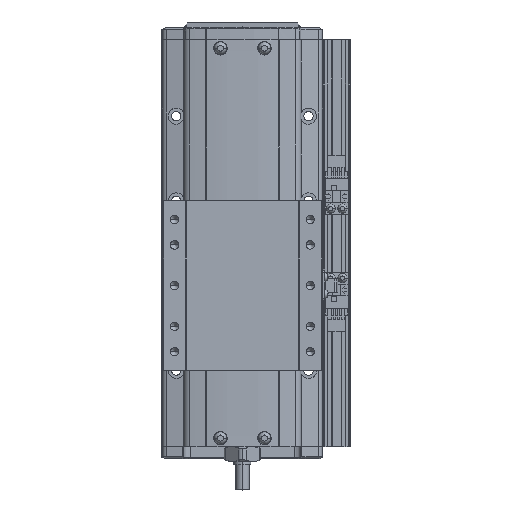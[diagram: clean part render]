
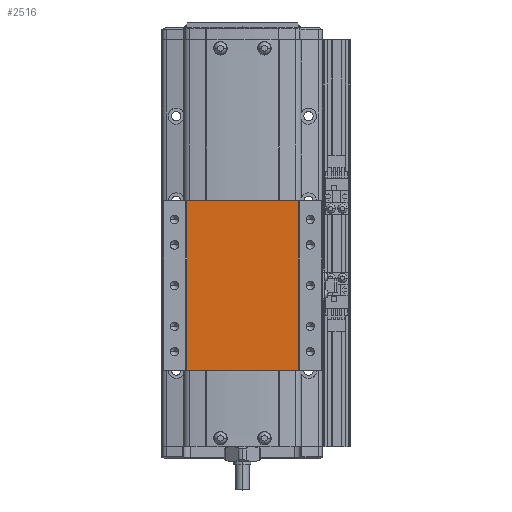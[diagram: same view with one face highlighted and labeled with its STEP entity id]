
A CAD part, top view. The second image highlights one B-rep face of the part: STEP entity #2516.
In plain terms, the highlighted planar face has unit normal (0, 0, 1).
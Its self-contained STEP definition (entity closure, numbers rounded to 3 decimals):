
#2516=ADVANCED_FACE('',(#6788),#6789,.F.);
#6788=FACE_OUTER_BOUND('',#13267,.T.);
#6789=PLANE('',#13268);
#13267=EDGE_LOOP('',(#21661,#21662,#21663,#21664));
#13268=AXIS2_PLACEMENT_3D('',#21665,#21666,#21667);
#21661=ORIENTED_EDGE('',*,*,#40017,.F.);
#21662=ORIENTED_EDGE('',*,*,#40018,.F.);
#21663=ORIENTED_EDGE('',*,*,#39475,.F.);
#21664=ORIENTED_EDGE('',*,*,#40019,.T.);
#21665=CARTESIAN_POINT('',(0.,167.222,30.5));
#21666=DIRECTION('',(0.,0.,-1.0));
#21667=DIRECTION('',(-1.0,0.,0.));
#39475=EDGE_CURVE('',#46958,#46960,#46961,.T.);
#40017=EDGE_CURVE('',#47938,#47939,#47940,.T.);
#40018=EDGE_CURVE('',#46960,#47938,#47941,.T.);
#40019=EDGE_CURVE('',#46958,#47939,#47942,.T.);
#46958=VERTEX_POINT('',#57910);
#46960=VERTEX_POINT('',#57912);
#46961=LINE('',#57913,#57914);
#47938=VERTEX_POINT('',#59311);
#47939=VERTEX_POINT('',#59312);
#47940=LINE('',#59313,#59314);
#47941=LINE('',#59315,#59316);
#47942=LINE('',#59317,#59318);
#57910=CARTESIAN_POINT('',(32.876,167.222,30.5));
#57912=CARTESIAN_POINT('',(-32.876,167.222,30.5));
#57913=CARTESIAN_POINT('',(32.876,167.222,30.5));
#57914=VECTOR('',#74067,10.0);
#59311=CARTESIAN_POINT('',(-32.876,267.222,30.5));
#59312=CARTESIAN_POINT('',(32.876,267.222,30.5));
#59313=CARTESIAN_POINT('',(32.876,267.222,30.5));
#59314=VECTOR('',#74717,10.0);
#59315=CARTESIAN_POINT('',(-32.876,167.222,30.5));
#59316=VECTOR('',#74718,10.0);
#59317=CARTESIAN_POINT('',(32.876,167.222,30.5));
#59318=VECTOR('',#74719,10.0);
#74067=DIRECTION('',(-1.0,0.,0.));
#74717=DIRECTION('',(1.0,0.,0.));
#74718=DIRECTION('',(0.,1.0,0.));
#74719=DIRECTION('',(0.,1.0,0.));
